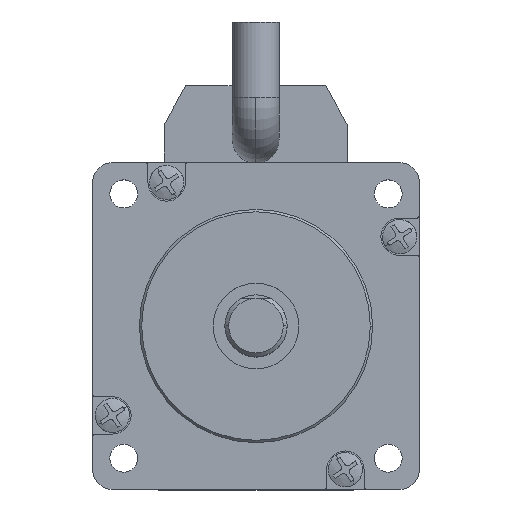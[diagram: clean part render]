
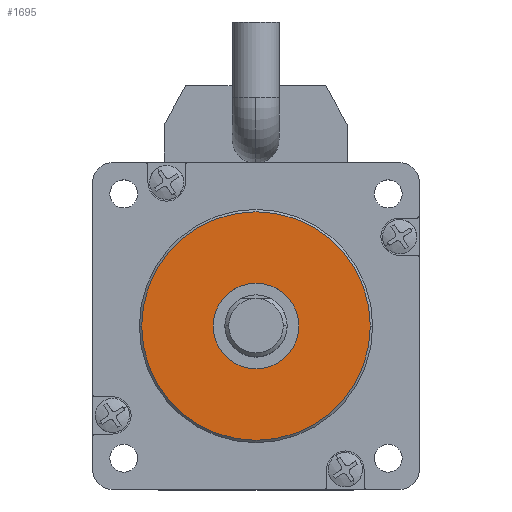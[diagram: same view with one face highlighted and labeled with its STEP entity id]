
A CAD part, top view. The second image highlights one B-rep face of the part: STEP entity #1695.
In plain terms, the highlighted planar face has unit normal (0, 0, 1).
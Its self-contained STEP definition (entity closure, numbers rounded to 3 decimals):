
#1229 = ORIENTED_EDGE ( 'NONE', *, *, #16757, .T. ) ;
#1695 = ADVANCED_FACE ( 'NONE', ( #29510, #30919 ), #7061, .T. ) ;
#2281 = AXIS2_PLACEMENT_3D ( 'NONE', #24767, #56313, #29304 ) ;
#2738 = CIRCLE ( 'NONE', #15447, 14.7 ) ;
#3226 = DIRECTION ( 'NONE',  ( 0., 0., 1. ) ) ;
#3335 = EDGE_LOOP ( 'NONE', ( #4889, #28773 ) ) ;
#4364 = DIRECTION ( 'NONE',  ( 0., 0., 1. ) ) ;
#4466 = DIRECTION ( 'NONE',  ( 0., 0., 1. ) ) ;
#4859 = DIRECTION ( 'NONE',  ( 1., 0., 0. ) ) ;
#4889 = ORIENTED_EDGE ( 'NONE', *, *, #52088, .F. ) ;
#5637 = CARTESIAN_POINT ( 'NONE',  ( -38.465, 3.205, 94.5 ) ) ;
#7061 = PLANE ( 'NONE',  #41597 ) ;
#10887 = CARTESIAN_POINT ( 'NONE',  ( -53.165, 3.205, 94.5 ) ) ;
#11647 = EDGE_LOOP ( 'NONE', ( #27764, #1229 ) ) ;
#12801 = DIRECTION ( 'NONE',  ( 0., 0., 1. ) ) ;
#15447 = AXIS2_PLACEMENT_3D ( 'NONE', #39825, #12801, #44337 ) ;
#16757 = EDGE_CURVE ( 'NONE', #41268, #42731, #2738, .T. ) ;
#16800 = CIRCLE ( 'NONE', #29240, 5.5 ) ;
#19864 = CIRCLE ( 'NONE', #2281, 14.7 ) ;
#24767 = CARTESIAN_POINT ( 'NONE',  ( -38.465, 3.205, 94.5 ) ) ;
#25929 = EDGE_CURVE ( 'NONE', #31672, #54449, #16800, .T. ) ;
#27764 = ORIENTED_EDGE ( 'NONE', *, *, #42157, .T. ) ;
#28692 = CARTESIAN_POINT ( 'NONE',  ( -32.965, 3.205, 94.5 ) ) ;
#28773 = ORIENTED_EDGE ( 'NONE', *, *, #25929, .F. ) ;
#29240 = AXIS2_PLACEMENT_3D ( 'NONE', #31432, #4364, #35972 ) ;
#29304 = DIRECTION ( 'NONE',  ( 1., 0., 0. ) ) ;
#29510 = FACE_OUTER_BOUND ( 'NONE', #11647, .T. ) ;
#30291 = CARTESIAN_POINT ( 'NONE',  ( -38.465, 3.205, 94.5 ) ) ;
#30919 = FACE_BOUND ( 'NONE', #3335, .T. ) ;
#31432 = CARTESIAN_POINT ( 'NONE',  ( -38.465, 3.205, 94.5 ) ) ;
#31672 = VERTEX_POINT ( 'NONE', #52917 ) ;
#34854 = DIRECTION ( 'NONE',  ( 1., 0., 0. ) ) ;
#35972 = DIRECTION ( 'NONE',  ( 1., 0., 0. ) ) ;
#39665 = CIRCLE ( 'NONE', #53067, 5.5 ) ;
#39825 = CARTESIAN_POINT ( 'NONE',  ( -38.465, 3.205, 94.5 ) ) ;
#41268 = VERTEX_POINT ( 'NONE', #41847 ) ;
#41597 = AXIS2_PLACEMENT_3D ( 'NONE', #5637, #4466, #4859 ) ;
#41847 = CARTESIAN_POINT ( 'NONE',  ( -23.765, 3.205, 94.5 ) ) ;
#42157 = EDGE_CURVE ( 'NONE', #42731, #41268, #19864, .T. ) ;
#42731 = VERTEX_POINT ( 'NONE', #10887 ) ;
#44337 = DIRECTION ( 'NONE',  ( 1., 0., 0. ) ) ;
#52088 = EDGE_CURVE ( 'NONE', #54449, #31672, #39665, .T. ) ;
#52917 = CARTESIAN_POINT ( 'NONE',  ( -43.965, 3.205, 94.5 ) ) ;
#53067 = AXIS2_PLACEMENT_3D ( 'NONE', #30291, #3226, #34854 ) ;
#54449 = VERTEX_POINT ( 'NONE', #28692 ) ;
#56313 = DIRECTION ( 'NONE',  ( 0., 0., 1. ) ) ;
